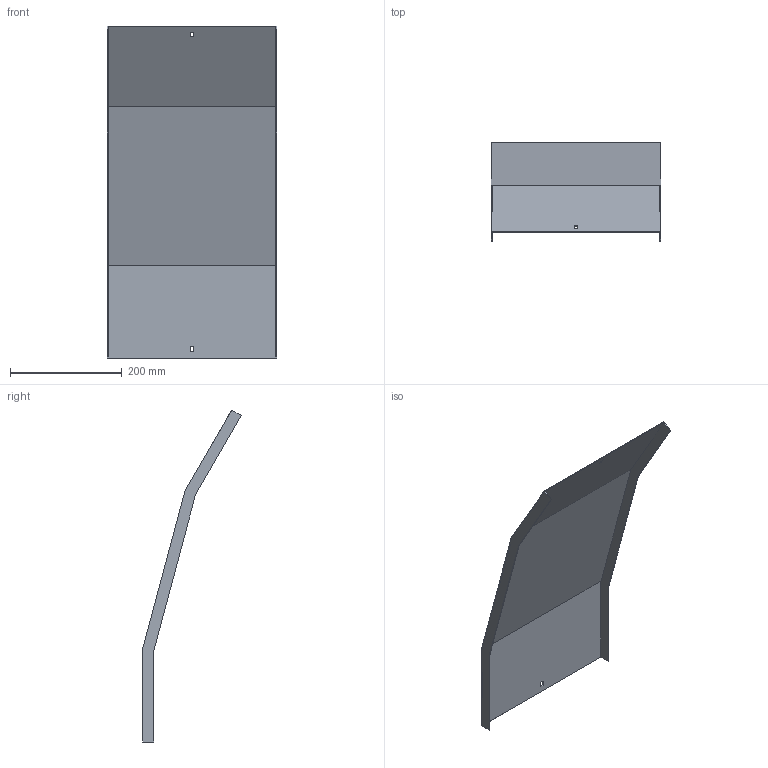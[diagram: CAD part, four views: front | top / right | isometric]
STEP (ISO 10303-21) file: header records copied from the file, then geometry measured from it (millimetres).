
FILE_DESCRIPTION (( 'STEP AP214' ), '1' );
FILE_NAME ('35N5J300.step', '2025-02-21T10:29:37', ( '' ), ( '' ), 'SwSTEP 2.0', 'SolidWorks 2023', '' );
FILE_SCHEMA (( 'AUTOMOTIVE_DESIGN' ));
Length unit declared in the file: millimetre
Products named in the file (1): 35N5J300
Bounding box: 303 x 176.54 x 594.21 mm (x, y, z)
Volume: 318862.2 mm3; surface area: 428111.8 mm2
Topology: 1 solids, 1 shells, 26 faces, 72 edges, 48 vertices
Faces by surface type: plane 26
Entity records: 847 total; most frequent: CARTESIAN_POINT 147, ORIENTED_EDGE 144, DIRECTION 126, LINE 72, VECTOR 72, EDGE_CURVE 72, VERTEX_POINT 48, EDGE_LOOP 30
